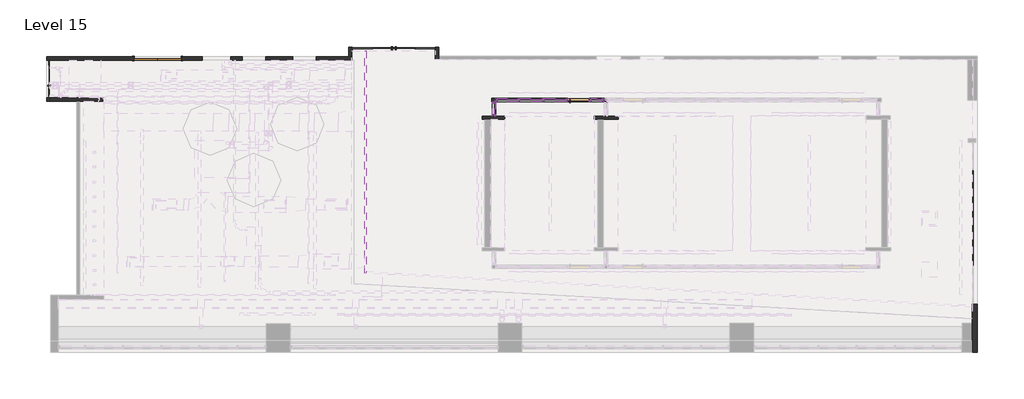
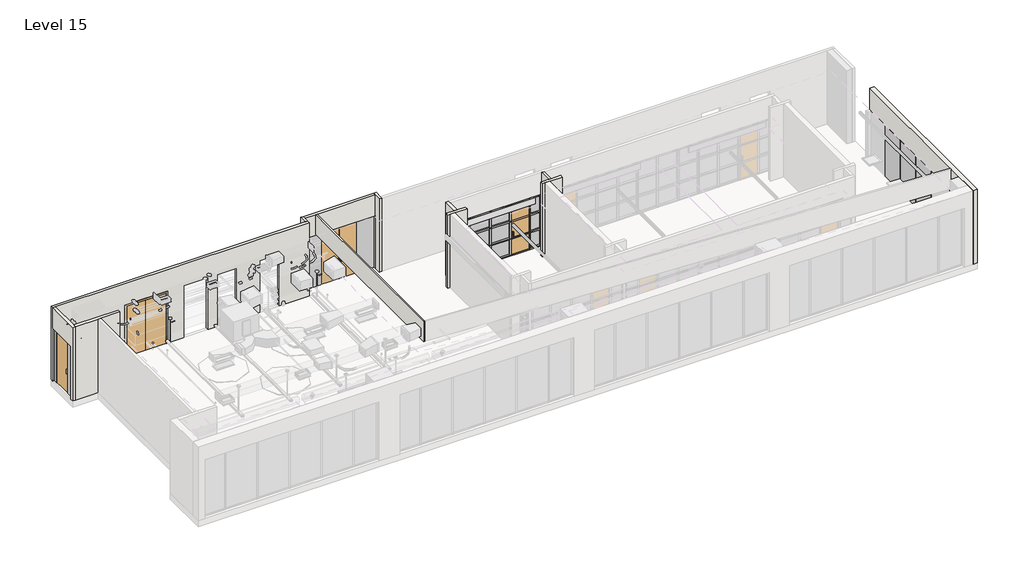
# One storey, part 4 of 11: 44 members, 23 plates, 12 walls, 4 doors.
"""IFC4 building model written with IfcOpenShell, lengths in millimetres."""

from ifc_helpers import new_model, si_unit, origin, place, context, project, spatial, faceted_brep, transform, mapped, element, save
from components import door_curtain_wall_single_glass_door_curtain_wall_single_wood_cd16bc55, door_e38457ce, m_door_curtain_wall_double_glass_m_door_curtain_wall_double_e74171b8, single_glass_door_door_curtain_wall_single_wood_f8af9d99, member_954a25dd, member_69cae7f1, member_c4e8739b, member_ae2b344b, member_e8c22809, member_75b1f528, member_4bf900b7, member_0079eb1d, member_377798e7, member_6aaa016f, member_a86ee493, member_0913546c, system_panel_glazed_a2e86c99, system_panel_glazed_5f2f0821, system_panel_glazed_c55544b5, system_panel_glazed_a68344bf, system_panel_glazed_f81f1869, system_panel_glazed_2e07d642, system_panel_glazed_fdbf88a6, system_panel_glazed_5c29f6be, system_panel_glazed_badf3451, system_panel_glazed_af863dd0, system_panel_glazed_a22f7e45, system_panel_glazed_e2c18884, system_panel_glazed_d4d25dca, system_panel_glazed_3e02181d, system_panel_glazed_dd8a9739, system_panel_glazed_3f411a17

model = new_model("IFC4")

# Units and contexts
model_context = context("Model", 3, world=origin())
ifc_project = project(units=[si_unit("LENGTHUNIT", "METRE", prefix="MILLI")], contexts=[model_context])

# Site, building, storey
site = spatial("IfcSite", under=ifc_project)
building = spatial("IfcBuilding", under=site)
storey = spatial("IfcBuildingStorey", under=building, Name="Level 15", Elevation=51206.4)

# Doors
placement = place(None, origin())
door_curtain_wall_single_glass_door_curtain_wall_single_wood_shape = door_curtain_wall_single_glass_door_curtain_wall_single_wood_cd16bc55(model_context)
element("IfcDoor", 1, ObjectType="Door-Curtain-Wall-Single-Glass : Door-Curtain-Wall-Single-Wood", at=placement, inside=storey, context=model_context, shape_type="MappedRepresentation", body=[
    mapped(door_curtain_wall_single_glass_door_curtain_wall_single_wood_shape, transform((2922.6369657, 3036.0059951, 51206.4), x_axis=(1.0, 0.0, 0.0), y_axis=(0.0, 1.0, 0.0), z_axis=(0.0, 0.0, 1.0))),
])
door_shape = door_e38457ce(model_context)
element("IfcDoor", 2, ObjectType="Door-Double-Flush_Panel : 74\" x 100\"", at=placement, inside=storey, context=model_context, shape_type="MappedRepresentation", body=[
    mapped(door_shape, transform((-13882.57525, 4696.9500496, 51206.4), x_axis=(1.0, 0.0, 0.0), y_axis=(0.0, 1.0, 0.0), z_axis=(0.0, 0.0, 1.0))),
])
m_door_curtain_wall_double_glass_m_door_curtain_wall_double_shape = m_door_curtain_wall_double_glass_m_door_curtain_wall_double_e74171b8(model_context)
element("IfcDoor", 3, ObjectType="M_Door-Curtain-Wall-Double-Glass : M_Door-Curtain-Wall-Double-Glass", at=placement, inside=storey, context=model_context, shape_type="MappedRepresentation", body=[
    mapped(m_door_curtain_wall_double_glass_m_door_curtain_wall_double_shape, transform((-4446.9144855, 5072.4081345, 51206.4), x_axis=(1.0, 0.0, 0.0), y_axis=(0.0, 1.0, 0.0), z_axis=(0.0, 0.0, 1.0))),
])
single_glass_door_door_curtain_wall_single_wood_shape = single_glass_door_door_curtain_wall_single_wood_f8af9d99(model_context)
element("IfcDoor", 4, ObjectType="Single-Glass Door : Door-Curtain-Wall-Single-Wood", at=placement, inside=storey, context=model_context, shape_type="MappedRepresentation", body=[
    mapped(single_glass_door_door_curtain_wall_single_wood_shape, transform((-18251.37525, 3976.2250496, 51206.4), x_axis=(0.0, 1.0, 0.0), y_axis=(-1.0, 0.0, 0.0), z_axis=(0.0, 0.0, 1.0))),
])

# Members
member_shape = member_954a25dd(model_context)
element("IfcMember", 5, ObjectType="Rectangular Mullion : 2.5\" x 5\" rectangular", at=placement, inside=storey, context=model_context, shape_type="MappedRepresentation", body=[
    mapped(member_shape, transform((-402.1055951, 3036.0059951, 51206.4), x_axis=(-1.0, 0.0, 0.0), y_axis=(0.0, 1.0, 0.0), z_axis=(0.0, 0.0, -1.0))),
])
element("IfcMember", 6, ObjectType="Rectangular Mullion : 2.5\" x 5\" rectangular", at=placement, inside=storey, context=model_context, shape_type="MappedRepresentation", body=[
    mapped(member_shape, transform((-442.9144534, 2976.416042, 51206.4), x_axis=(0.0, 1.0, 0.0), y_axis=(1.0, 0.0, 0.0), z_axis=(0.0, 0.0, -1.0))),
])
element("IfcMember", 7, ObjectType="Rectangular Mullion : 2.5\" x 5\" rectangular", at=placement, inside=storey, context=model_context, shape_type="MappedRepresentation", body=[
    mapped(member_shape, transform((3949.4264687, 3036.0059951, 53804.1570075), x_axis=(1.0, 0.0, 0.0), y_axis=(0.0, 1.0, 0.0), z_axis=(0.0, 0.0, 1.0))),
])
element("IfcMember", 8, ObjectType="Rectangular Mullion : 2.5\" x 5\" rectangular", at=placement, inside=storey, context=model_context, shape_type="MappedRepresentation", body=[
    mapped(member_shape, transform((-442.9144534, 2388.3059951, 53804.1570075), x_axis=(0.0, -1.0, 0.0), y_axis=(1.0, 0.0, 0.0), z_axis=(0.0, 0.0, 1.0))),
])
member_2_shape = member_69cae7f1(model_context)
element("IfcMember", 9, ObjectType="Rectangular Mullion : 2.5\" x 5\" rectangular", at=placement, inside=storey, context=model_context, shape_type="MappedRepresentation", body=[
    mapped(member_2_shape, transform((2465.4369657, 3036.0059951, 51206.4), x_axis=(-1.0, 0.0, 0.0), y_axis=(0.0, 1.0, 0.0), z_axis=(0.0, 0.0, -1.0))),
])
element("IfcMember", 10, ObjectType="Rectangular Mullion : 2.5\" x 5\" rectangular", at=placement, inside=storey, context=model_context, shape_type="MappedRepresentation", body=[
    mapped(member_2_shape, transform((3379.8369657, 3036.0059951, 51206.4), x_axis=(-1.0, 0.0, 0.0), y_axis=(0.0, 1.0, 0.0), z_axis=(0.0, 0.0, -1.0))),
])
element("IfcMember", 11, ObjectType="Rectangular Mullion : 2.5\" x 5\" rectangular", at=placement, inside=storey, context=model_context, shape_type="MappedRepresentation", body=[
    mapped(member_2_shape, transform((1517.1531593, 3036.0059951, 51206.4), x_axis=(-1.0, 0.0, 0.0), y_axis=(0.0, 1.0, 0.0), z_axis=(0.0, 0.0, -1.0))),
])
element("IfcMember", 12, ObjectType="Rectangular Mullion : 2.5\" x 5\" rectangular", at=placement, inside=storey, context=model_context, shape_type="MappedRepresentation", body=[
    mapped(member_2_shape, transform((528.6355466, 3036.0059951, 51206.4), x_axis=(-1.0, 0.0, 0.0), y_axis=(0.0, 1.0, 0.0), z_axis=(0.0, 0.0, -1.0))),
])
element("IfcMember", 13, ObjectType="Rectangular Mullion : 2.5\" x 5\" rectangular", at=placement, inside=storey, context=model_context, shape_type="MappedRepresentation", body=[
    mapped(member_2_shape, transform((3379.8369657, 3036.0059951, 52938.238005), x_axis=(-1.0, 0.0, 0.0), y_axis=(0.0, 1.0, 0.0), z_axis=(0.0, 0.0, -1.0))),
])
element("IfcMember", 14, ObjectType="Rectangular Mullion : 2.5\" x 5\" rectangular", at=placement, inside=storey, context=model_context, shape_type="MappedRepresentation", body=[
    mapped(member_2_shape, transform((2465.4369657, 3036.0059951, 52938.238005), x_axis=(-1.0, 0.0, 0.0), y_axis=(0.0, 1.0, 0.0), z_axis=(0.0, 0.0, -1.0))),
])
element("IfcMember", 15, ObjectType="Rectangular Mullion : 2.5\" x 5\" rectangular", at=placement, inside=storey, context=model_context, shape_type="MappedRepresentation", body=[
    mapped(member_2_shape, transform((1517.1531593, 3036.0059951, 52938.238005), x_axis=(-1.0, 0.0, 0.0), y_axis=(0.0, 1.0, 0.0), z_axis=(0.0, 0.0, -1.0))),
])
element("IfcMember", 16, ObjectType="Rectangular Mullion : 2.5\" x 5\" rectangular", at=placement, inside=storey, context=model_context, shape_type="MappedRepresentation", body=[
    mapped(member_2_shape, transform((528.6355466, 3036.0059951, 52938.238005), x_axis=(-1.0, 0.0, 0.0), y_axis=(0.0, 1.0, 0.0), z_axis=(0.0, 0.0, -1.0))),
])
element("IfcMember", 17, ObjectType="Rectangular Mullion : 2.5\" x 5\" rectangular", at=placement, inside=storey, context=model_context, shape_type="MappedRepresentation", body=[
    mapped(member_2_shape, transform((3379.8369657, 3036.0059951, 52072.3190025), x_axis=(-1.0, 0.0, 0.0), y_axis=(0.0, 1.0, 0.0), z_axis=(0.0, 0.0, -1.0))),
])
element("IfcMember", 18, ObjectType="Rectangular Mullion : 2.5\" x 5\" rectangular", at=placement, inside=storey, context=model_context, shape_type="MappedRepresentation", body=[
    mapped(member_2_shape, transform((2465.4369657, 3036.0059951, 52072.3190025), x_axis=(-1.0, 0.0, 0.0), y_axis=(0.0, 1.0, 0.0), z_axis=(0.0, 0.0, -1.0))),
])
element("IfcMember", 19, ObjectType="Rectangular Mullion : 2.5\" x 5\" rectangular", at=placement, inside=storey, context=model_context, shape_type="MappedRepresentation", body=[
    mapped(member_2_shape, transform((1517.1531593, 3036.0059951, 52072.3190025), x_axis=(-1.0, 0.0, 0.0), y_axis=(0.0, 1.0, 0.0), z_axis=(0.0, 0.0, -1.0))),
])
element("IfcMember", 20, ObjectType="Rectangular Mullion : 2.5\" x 5\" rectangular", at=placement, inside=storey, context=model_context, shape_type="MappedRepresentation", body=[
    mapped(member_2_shape, transform((528.6355466, 3036.0059951, 52072.3190025), x_axis=(-1.0, 0.0, 0.0), y_axis=(0.0, 1.0, 0.0), z_axis=(0.0, 0.0, -1.0))),
])
member_3_shape = member_c4e8739b(model_context)
element("IfcMember", 21, ObjectType="Rectangular Mullion : 2.5\" x 5\" rectangular", at=placement, inside=storey, context=model_context, shape_type="MappedRepresentation", body=[
    mapped(member_3_shape, transform((2433.6869657, 3036.0059951, 51206.4), x_axis=(0.0, 0.0, -1.0), y_axis=(0.0, 1.0, 0.0), z_axis=(1.0, 0.0, 0.0))),
])
member_4_shape = member_ae2b344b(model_context)
element("IfcMember", 22, ObjectType="Rectangular Mullion : 2.5\" x 5\" rectangular", at=placement, inside=storey, context=model_context, shape_type="MappedRepresentation", body=[
    mapped(member_4_shape, transform((1548.9031593, 3036.0059951, 52938.238005), x_axis=(0.0, 0.0, 1.0), y_axis=(0.0, 1.0, 0.0), z_axis=(-1.0, 0.0, 0.0))),
])
element("IfcMember", 23, ObjectType="Rectangular Mullion : 2.5\" x 5\" rectangular", at=placement, inside=storey, context=model_context, shape_type="MappedRepresentation", body=[
    mapped(member_4_shape, transform((1548.9031593, 3036.0059951, 52072.3190025), x_axis=(0.0, 0.0, 1.0), y_axis=(0.0, 1.0, 0.0), z_axis=(-1.0, 0.0, 0.0))),
])
element("IfcMember", 24, ObjectType="Rectangular Mullion : 2.5\" x 5\" rectangular", at=placement, inside=storey, context=model_context, shape_type="MappedRepresentation", body=[
    mapped(member_3_shape, transform((1548.9031593, 3036.0059951, 53804.1570075), x_axis=(0.0, 0.0, 1.0), y_axis=(0.0, 1.0, 0.0), z_axis=(-1.0, 0.0, 0.0))),
])
member_5_shape = member_e8c22809(model_context)
element("IfcMember", 25, ObjectType="Rectangular Mullion : 2.5\" x 5\" rectangular", at=placement, inside=storey, context=model_context, shape_type="MappedRepresentation", body=[
    mapped(member_5_shape, transform((1485.4031593, 3036.0059951, 51206.4), x_axis=(0.0, 0.0, -1.0), y_axis=(0.0, 1.0, 0.0), z_axis=(1.0, 0.0, 0.0))),
])
member_6_shape = member_75b1f528(model_context)
element("IfcMember", 26, ObjectType="Rectangular Mullion : 2.5\" x 5\" rectangular", at=placement, inside=storey, context=model_context, shape_type="MappedRepresentation", body=[
    mapped(member_6_shape, transform((560.3855466, 3036.0059951, 52072.3190025), x_axis=(0.0, 0.0, 1.0), y_axis=(0.0, 1.0, 0.0), z_axis=(-1.0, 0.0, 0.0))),
])
element("IfcMember", 27, ObjectType="Rectangular Mullion : 2.5\" x 5\" rectangular", at=placement, inside=storey, context=model_context, shape_type="MappedRepresentation", body=[
    mapped(member_6_shape, transform((560.3855466, 3036.0059951, 52938.238005), x_axis=(0.0, 0.0, 1.0), y_axis=(0.0, 1.0, 0.0), z_axis=(-1.0, 0.0, 0.0))),
])
element("IfcMember", 28, ObjectType="Rectangular Mullion : 2.5\" x 5\" rectangular", at=placement, inside=storey, context=model_context, shape_type="MappedRepresentation", body=[
    mapped(member_5_shape, transform((560.3855466, 3036.0059951, 53804.1570075), x_axis=(0.0, 0.0, 1.0), y_axis=(0.0, 1.0, 0.0), z_axis=(-1.0, 0.0, 0.0))),
])
element("IfcMember", 29, ObjectType="Rectangular Mullion : 2.5\" x 5\" rectangular", at=placement, inside=storey, context=model_context, shape_type="MappedRepresentation", body=[
    mapped(member_shape, transform((-402.1055951, 3036.0059951, 52938.238005), x_axis=(-1.0, 0.0, 0.0), y_axis=(0.0, 1.0, 0.0), z_axis=(0.0, 0.0, -1.0))),
])
element("IfcMember", 30, ObjectType="Rectangular Mullion : 2.5\" x 5\" rectangular", at=placement, inside=storey, context=model_context, shape_type="MappedRepresentation", body=[
    mapped(member_shape, transform((-442.9144534, 2976.416042, 52938.238005), x_axis=(0.0, 1.0, 0.0), y_axis=(1.0, 0.0, 0.0), z_axis=(0.0, 0.0, -1.0))),
])
element("IfcMember", 31, ObjectType="Rectangular Mullion : 2.5\" x 5\" rectangular", at=placement, inside=storey, context=model_context, shape_type="MappedRepresentation", body=[
    mapped(member_shape, transform((3949.4264687, 3036.0059951, 52938.238005), x_axis=(1.0, 0.0, 0.0), y_axis=(0.0, 1.0, 0.0), z_axis=(0.0, 0.0, 1.0))),
])
element("IfcMember", 32, ObjectType="Rectangular Mullion : 2.5\" x 5\" rectangular", at=placement, inside=storey, context=model_context, shape_type="MappedRepresentation", body=[
    mapped(member_shape, transform((-442.9144534, 2388.3059951, 52938.238005), x_axis=(0.0, -1.0, 0.0), y_axis=(1.0, 0.0, 0.0), z_axis=(0.0, 0.0, 1.0))),
])
element("IfcMember", 33, ObjectType="Rectangular Mullion : 2.5\" x 5\" rectangular", at=placement, inside=storey, context=model_context, shape_type="MappedRepresentation", body=[
    mapped(member_shape, transform((-402.1055951, 3036.0059951, 52072.3190025), x_axis=(-1.0, 0.0, 0.0), y_axis=(0.0, 1.0, 0.0), z_axis=(0.0, 0.0, -1.0))),
])
element("IfcMember", 34, ObjectType="Rectangular Mullion : 2.5\" x 5\" rectangular", at=placement, inside=storey, context=model_context, shape_type="MappedRepresentation", body=[
    mapped(member_shape, transform((-442.9144534, 2976.416042, 52072.3190025), x_axis=(0.0, 1.0, 0.0), y_axis=(1.0, 0.0, 0.0), z_axis=(0.0, 0.0, -1.0))),
])
element("IfcMember", 35, ObjectType="Rectangular Mullion : 2.5\" x 5\" rectangular", at=placement, inside=storey, context=model_context, shape_type="MappedRepresentation", body=[
    mapped(member_shape, transform((3949.4264687, 3036.0059951, 52072.3190025), x_axis=(1.0, 0.0, 0.0), y_axis=(0.0, 1.0, 0.0), z_axis=(0.0, 0.0, 1.0))),
])
element("IfcMember", 36, ObjectType="Rectangular Mullion : 2.5\" x 5\" rectangular", at=placement, inside=storey, context=model_context, shape_type="MappedRepresentation", body=[
    mapped(member_shape, transform((-442.9144534, 2388.3059951, 52072.3190025), x_axis=(0.0, -1.0, 0.0), y_axis=(1.0, 0.0, 0.0), z_axis=(0.0, 0.0, 1.0))),
])
member_7_shape = member_4bf900b7(model_context)
element("IfcMember", 37, ObjectType="Rectangular Mullion : 2.5\" x 5\" rectangular", at=placement, inside=storey, context=model_context, shape_type="MappedRepresentation", body=[
    mapped(member_7_shape, transform((-338.6055951, 3036.0059951, 53804.1570075), x_axis=(0.0, 0.0, 1.0), y_axis=(0.0, 1.0, 0.0), z_axis=(-1.0, 0.0, 0.0))),
])
member_8_shape = member_0079eb1d(model_context)
element("IfcMember", 38, ObjectType="Rectangular Mullion : 2.5\" x 5\" rectangular", at=placement, inside=storey, context=model_context, shape_type="MappedRepresentation", body=[
    mapped(member_8_shape, transform((3885.9264687, 3036.0059951, 51206.4), x_axis=(0.0, 0.0, -1.0), y_axis=(0.0, 1.0, 0.0), z_axis=(1.0, 0.0, 0.0))),
])
element("IfcMember", 39, ObjectType="Rectangular Mullion : 2.5\" x 5\" rectangular", at=placement, inside=storey, context=model_context, shape_type="MappedRepresentation", body=[
    mapped(member_8_shape, transform((3411.5869657, 3036.0059951, 53804.1570075), x_axis=(0.0, 0.0, 1.0), y_axis=(0.0, 1.0, 0.0), z_axis=(-1.0, 0.0, 0.0))),
])
member_9_shape = member_377798e7(model_context)
element("IfcMember", 40, ObjectType="Rectangular Mullion : 2.5\" x 5\" rectangular", at=placement, inside=storey, context=model_context, shape_type="MappedRepresentation", body=[
    mapped(member_9_shape, transform((3411.5869657, 3036.0059951, 52938.238005), x_axis=(0.0, 0.0, 1.0), y_axis=(0.0, 1.0, 0.0), z_axis=(-1.0, 0.0, 0.0))),
])
element("IfcMember", 41, ObjectType="Rectangular Mullion : 2.5\" x 5\" rectangular", at=placement, inside=storey, context=model_context, shape_type="MappedRepresentation", body=[
    mapped(member_9_shape, transform((3411.5869657, 3036.0059951, 52072.3190025), x_axis=(0.0, 0.0, 1.0), y_axis=(0.0, 1.0, 0.0), z_axis=(-1.0, 0.0, 0.0))),
])
element("IfcMember", 42, ObjectType="Rectangular Mullion : 2.5\" x 5\" rectangular", at=placement, inside=storey, context=model_context, shape_type="MappedRepresentation", body=[
    mapped(member_7_shape, transform((496.8855466, 3036.0059951, 51206.4), x_axis=(0.0, 0.0, -1.0), y_axis=(0.0, 1.0, 0.0), z_axis=(1.0, 0.0, 0.0))),
])
member_10_shape = member_6aaa016f(model_context)
element("IfcMember", 43, ObjectType="Rectangular Mullion : 2.5\" x 5\" rectangular", at=placement, inside=storey, context=model_context, shape_type="MappedRepresentation", body=[
    mapped(member_10_shape, transform((-338.6055951, 3036.0059951, 52072.3190025), x_axis=(0.0, 0.0, 1.0), y_axis=(0.0, 1.0, 0.0), z_axis=(-1.0, 0.0, 0.0))),
])
element("IfcMember", 44, ObjectType="Rectangular Mullion : 2.5\" x 5\" rectangular", at=placement, inside=storey, context=model_context, shape_type="MappedRepresentation", body=[
    mapped(member_10_shape, transform((-338.6055951, 3036.0059951, 52938.238005), x_axis=(0.0, 0.0, 1.0), y_axis=(0.0, 1.0, 0.0), z_axis=(-1.0, 0.0, 0.0))),
])
member_11_shape = member_a86ee493(model_context)
element("IfcMember", 45, ObjectType="Rectangular Mullion : 2.5\" x 5\" rectangular", at=placement, inside=storey, context=model_context, shape_type="MappedRepresentation", body=[
    mapped(member_11_shape, transform((-442.9144534, 2912.916042, 53804.1570075), x_axis=(0.0, 0.0, 1.0), y_axis=(1.0, 0.0, 0.0), z_axis=(0.0, 1.0, 0.0))),
])
element("IfcMember", 46, ObjectType="Rectangular Mullion : 2.5\" x 5\" rectangular", at=placement, inside=storey, context=model_context, shape_type="MappedRepresentation", body=[
    mapped(member_11_shape, transform((-442.9144534, 2451.8059951, 51206.4), x_axis=(0.0, 0.0, -1.0), y_axis=(1.0, 0.0, 0.0), z_axis=(0.0, -1.0, 0.0))),
])
member_12_shape = member_0913546c(model_context)
element("IfcMember", 47, ObjectType="Rectangular Mullion : 2.5\" x 5\" rectangular", at=placement, inside=storey, context=model_context, shape_type="MappedRepresentation", body=[
    mapped(member_12_shape, transform((-442.9144534, 2912.916042, 52938.238005), x_axis=(0.0, 0.0, 1.0), y_axis=(1.0, 0.0, 0.0), z_axis=(0.0, 1.0, 0.0))),
])
element("IfcMember", 48, ObjectType="Rectangular Mullion : 2.5\" x 5\" rectangular", at=placement, inside=storey, context=model_context, shape_type="MappedRepresentation", body=[
    mapped(member_12_shape, transform((-442.9144534, 2912.916042, 52072.3190025), x_axis=(0.0, 0.0, 1.0), y_axis=(1.0, 0.0, 0.0), z_axis=(0.0, 1.0, 0.0))),
])

# Plates
system_panel_glazed_shape = system_panel_glazed_a2e86c99(model_context)
element("IfcPlate", 49, ObjectType="System Panel : Glazed", at=placement, inside=storey, context=model_context, shape_type="MappedRepresentation", body=[
    mapped(system_panel_glazed_shape, transform((18645.0084916, -411.2064015, 51206.4), x_axis=(0.0, -1.0, 0.0), y_axis=(1.0, 0.0, 0.0), z_axis=(0.0, 0.0, 1.0))),
])
element("IfcPlate", 50, ObjectType="System Panel : Glazed", at=placement, inside=storey, context=model_context, shape_type="MappedRepresentation", body=[
    mapped(system_panel_glazed_shape, transform((18645.0084916, -1681.2064015, 51206.4), x_axis=(0.0, -1.0, 0.0), y_axis=(1.0, 0.0, 0.0), z_axis=(0.0, 0.0, 1.0))),
])
element("IfcPlate", 51, ObjectType="System Panel : Glazed", at=placement, inside=storey, context=model_context, shape_type="MappedRepresentation", body=[
    mapped(system_panel_glazed_shape, transform((18645.0084916, -2951.2064015, 51206.4), x_axis=(0.0, -1.0, 0.0), y_axis=(1.0, 0.0, 0.0), z_axis=(0.0, 0.0, 1.0))),
])
system_panel_glazed_2_shape = system_panel_glazed_5f2f0821(model_context)
element("IfcPlate", 52, ObjectType="System Panel : Glazed", at=placement, inside=storey, context=model_context, shape_type="MappedRepresentation", body=[
    mapped(system_panel_glazed_2_shape, transform((4027.5369657, 2674.1059951, 51269.9), x_axis=(0.0, 1.0, 0.0), y_axis=(-1.0, 0.0, 0.0), z_axis=(0.0, 0.0, 1.0))),
])
system_panel_glazed_3_shape = system_panel_glazed_c55544b5(model_context)
element("IfcPlate", 53, ObjectType="System Panel : Glazed", at=placement, inside=storey, context=model_context, shape_type="MappedRepresentation", body=[
    mapped(system_panel_glazed_3_shape, transform((1991.2950625, 3036.0059951, 51269.9), x_axis=(-1.0, 0.0, 0.0), y_axis=(0.0, -1.0, 0.0), z_axis=(0.0, 0.0, 1.0))),
])
element("IfcPlate", 54, ObjectType="System Panel : Glazed", at=placement, inside=storey, context=model_context, shape_type="MappedRepresentation", body=[
    mapped(system_panel_glazed_3_shape, transform((1991.2950625, 3036.0059951, 52969.988005), x_axis=(-1.0, 0.0, 0.0), y_axis=(0.0, -1.0, 0.0), z_axis=(0.0, 0.0, 1.0))),
])
system_panel_glazed_4_shape = system_panel_glazed_a68344bf(model_context)
element("IfcPlate", 55, ObjectType="System Panel : Glazed", at=placement, inside=storey, context=model_context, shape_type="MappedRepresentation", body=[
    mapped(system_panel_glazed_4_shape, transform((1991.2950625, 3036.0059951, 52104.0690025), x_axis=(-1.0, 0.0, 0.0), y_axis=(0.0, -1.0, 0.0), z_axis=(0.0, 0.0, 1.0))),
])
system_panel_glazed_5_shape = system_panel_glazed_f81f1869(model_context)
element("IfcPlate", 56, ObjectType="System Panel : Glazed", at=placement, inside=storey, context=model_context, shape_type="MappedRepresentation", body=[
    mapped(system_panel_glazed_5_shape, transform((1022.894353, 3036.0059951, 51269.9), x_axis=(-1.0, 0.0, 0.0), y_axis=(0.0, -1.0, 0.0), z_axis=(0.0, 0.0, 1.0))),
])
element("IfcPlate", 57, ObjectType="System Panel : Glazed", at=placement, inside=storey, context=model_context, shape_type="MappedRepresentation", body=[
    mapped(system_panel_glazed_5_shape, transform((1022.894353, 3036.0059951, 52969.988005), x_axis=(-1.0, 0.0, 0.0), y_axis=(0.0, -1.0, 0.0), z_axis=(0.0, 0.0, 1.0))),
])
system_panel_glazed_6_shape = system_panel_glazed_2e07d642(model_context)
element("IfcPlate", 58, ObjectType="System Panel : Glazed", at=placement, inside=storey, context=model_context, shape_type="MappedRepresentation", body=[
    mapped(system_panel_glazed_6_shape, transform((1022.894353, 3036.0059951, 52104.0690025), x_axis=(-1.0, 0.0, 0.0), y_axis=(0.0, -1.0, 0.0), z_axis=(0.0, 0.0, 1.0))),
])
system_panel_glazed_7_shape = system_panel_glazed_fdbf88a6(model_context)
element("IfcPlate", 59, ObjectType="System Panel : Glazed", at=placement, inside=storey, context=model_context, shape_type="MappedRepresentation", body=[
    mapped(system_panel_glazed_7_shape, transform((3648.7567172, 3036.0059951, 51269.9), x_axis=(-1.0, 0.0, 0.0), y_axis=(0.0, -1.0, 0.0), z_axis=(0.0, 0.0, 1.0))),
])
element("IfcPlate", 60, ObjectType="System Panel : Glazed", at=placement, inside=storey, context=model_context, shape_type="MappedRepresentation", body=[
    mapped(system_panel_glazed_7_shape, transform((3648.7567172, 3036.0059951, 52969.988005), x_axis=(-1.0, 0.0, 0.0), y_axis=(0.0, -1.0, 0.0), z_axis=(0.0, 0.0, 1.0))),
])
system_panel_glazed_8_shape = system_panel_glazed_5c29f6be(model_context)
element("IfcPlate", 61, ObjectType="System Panel : Glazed", at=placement, inside=storey, context=model_context, shape_type="MappedRepresentation", body=[
    mapped(system_panel_glazed_8_shape, transform((-442.9144534, 2682.3610185, 51269.9), x_axis=(0.0, 1.0, 0.0), y_axis=(-1.0, 0.0, 0.0), z_axis=(0.0, 0.0, 1.0))),
])
element("IfcPlate", 62, ObjectType="System Panel : Glazed", at=placement, inside=storey, context=model_context, shape_type="MappedRepresentation", body=[
    mapped(system_panel_glazed_8_shape, transform((-442.9144534, 2682.3610185, 52969.988005), x_axis=(0.0, 1.0, 0.0), y_axis=(-1.0, 0.0, 0.0), z_axis=(0.0, 0.0, 1.0))),
])
system_panel_glazed_9_shape = system_panel_glazed_badf3451(model_context)
element("IfcPlate", 63, ObjectType="System Panel : Glazed", at=placement, inside=storey, context=model_context, shape_type="MappedRepresentation", body=[
    mapped(system_panel_glazed_9_shape, transform((3648.7567172, 3036.0059951, 52104.0690025), x_axis=(-1.0, 0.0, 0.0), y_axis=(0.0, -1.0, 0.0), z_axis=(0.0, 0.0, 1.0))),
])
system_panel_glazed_10_shape = system_panel_glazed_af863dd0(model_context)
element("IfcPlate", 64, ObjectType="System Panel : Glazed", at=placement, inside=storey, context=model_context, shape_type="MappedRepresentation", body=[
    mapped(system_panel_glazed_10_shape, transform((79.1399758, 3036.0059951, 51269.9), x_axis=(-1.0, 0.0, 0.0), y_axis=(0.0, -1.0, 0.0), z_axis=(0.0, 0.0, 1.0))),
])
element("IfcPlate", 65, ObjectType="System Panel : Glazed", at=placement, inside=storey, context=model_context, shape_type="MappedRepresentation", body=[
    mapped(system_panel_glazed_10_shape, transform((79.1399758, 3036.0059951, 52969.988005), x_axis=(-1.0, 0.0, 0.0), y_axis=(0.0, -1.0, 0.0), z_axis=(0.0, 0.0, 1.0))),
])
system_panel_glazed_11_shape = system_panel_glazed_a22f7e45(model_context)
element("IfcPlate", 66, ObjectType="System Panel : Glazed", at=placement, inside=storey, context=model_context, shape_type="MappedRepresentation", body=[
    mapped(system_panel_glazed_11_shape, transform((79.1399758, 3036.0059951, 52104.0690025), x_axis=(-1.0, 0.0, 0.0), y_axis=(0.0, -1.0, 0.0), z_axis=(0.0, 0.0, 1.0))),
])
system_panel_glazed_12_shape = system_panel_glazed_e2c18884(model_context)
element("IfcPlate", 67, ObjectType="System Panel : Glazed", at=placement, inside=storey, context=model_context, shape_type="MappedRepresentation", body=[
    mapped(system_panel_glazed_12_shape, transform((-442.9144534, 2682.3610185, 52104.0690025), x_axis=(0.0, 1.0, 0.0), y_axis=(-1.0, 0.0, 0.0), z_axis=(0.0, 0.0, 1.0))),
])
system_panel_glazed_13_shape = system_panel_glazed_d4d25dca(model_context)
element("IfcPlate", 68, ObjectType="System Panel : Glazed", at=placement, inside=storey, context=model_context, shape_type="MappedRepresentation", body=[
    mapped(system_panel_glazed_13_shape, transform((-18251.37525, 4533.4375496, 51206.4), x_axis=(0.0, -1.0, 0.0), y_axis=(1.0, 0.0, 0.0), z_axis=(0.0, 0.0, 1.0))),
])
system_panel_glazed_14_shape = system_panel_glazed_3e02181d(model_context)
element("IfcPlate", 69, ObjectType="System Panel : Glazed", at=placement, inside=storey, context=model_context, shape_type="MappedRepresentation", body=[
    mapped(system_panel_glazed_14_shape, transform((-18251.37525, 3328.5250496, 51206.4), x_axis=(0.0, -1.0, 0.0), y_axis=(1.0, 0.0, 0.0), z_axis=(0.0, 0.0, 1.0))),
])
system_panel_glazed_15_shape = system_panel_glazed_dd8a9739(model_context)
element("IfcPlate", 70, ObjectType="System Panel : Glazed", at=placement, inside=storey, context=model_context, shape_type="MappedRepresentation", body=[
    mapped(system_panel_glazed_15_shape, transform((-3199.4811847, 5072.4081345, 51206.4), x_axis=(1.0, 0.0, 0.0), y_axis=(0.0, 1.0, 0.0), z_axis=(0.0, 0.0, 1.0))),
])
system_panel_glazed_16_shape = system_panel_glazed_3f411a17(model_context)
element("IfcPlate", 71, ObjectType="System Panel : Glazed", at=placement, inside=storey, context=model_context, shape_type="MappedRepresentation", body=[
    mapped(system_panel_glazed_16_shape, transform((-5691.5144855, 5072.4081345, 51206.4), x_axis=(1.0, 0.0, 0.0), y_axis=(0.0, 1.0, 0.0), z_axis=(0.0, 0.0, 1.0))),
])

# Walls
element("IfcWall", 72, ObjectType="Generic - 3\"", at=placement, inside=storey, context=model_context, shape_type="Brep", body=[
    faceted_brep([(-5614.87525, 5008.9081345, 53889.275), (-5614.87525, -3879.7923298, 53889.275), (-5614.87525, -3879.7923298, 54889.4), (-5614.87525, 5008.9081345, 54889.4), (-5538.67525, 5008.9081345, 53889.275), (-5538.67525, 5008.9081345, 54889.4), (-5538.67525, -3807.7325414, 54889.4), (-5538.67525, -3884.0514798, 54889.4), (-5538.67525, -3884.0514798, 53889.275), (-5538.67525, -3807.7325414, 53889.275)], [[[0, 1, 2, 3]], [[4, 5, 6, 7, 8, 9]], [[1, 0, 4, 9, 8]], [[3, 2, 7, 6, 5]], [[0, 3, 5, 4]], [[2, 1, 8, 7]]]),
])
element("IfcWall", 73, ObjectType="Generic - 5\"", at=placement, inside=storey, context=model_context, shape_type="Brep", body=[
    faceted_brep([(-18314.87525, 4760.4500496, 54889.4), (-6249.87525, 4760.4500496, 54889.4), (-6122.87525, 4760.4500496, 54889.4), (-6122.87525, 4760.4500496, 51206.4), (-6249.87525, 4760.4500496, 51206.4), (-7547.97525, 4760.4500496, 51206.4), (-7547.97525, 4760.4500496, 53807.2), (-8482.37525, 4760.4500496, 53807.2), (-8482.37525, 4760.4500496, 51206.4), (-9567.27525, 4760.4500496, 51206.4), (-9567.27525, 4760.4500496, 53807.2), (-10501.67525, 4760.4500496, 53807.2), (-10501.67525, 4760.4500496, 51206.4), (-10951.57525, 4760.4500496, 51206.4), (-10951.57525, 4760.4500496, 53807.2), (-12089.17525, 4760.4500496, 53807.2), (-12089.17525, 4760.4500496, 51206.4), (-12942.77525, 4760.4500496, 51206.4), (-12942.77525, 4760.4500496, 53746.4), (-14822.37525, 4760.4500496, 53746.4), (-14822.37525, 4760.4500496, 51206.4), (-18314.87525, 4760.4500496, 51206.4), (-6122.87525, 4633.4500496, 54889.4), (-18187.87525, 4633.4500496, 54889.4), (-18314.87525, 4633.4500496, 54889.4), (-18314.87525, 4633.4500496, 53847.180647), (-18314.87525, 4633.4500496, 51206.4), (-14822.37525, 4633.4500496, 51206.4), (-14822.37525, 4633.4500496, 53746.4), (-12942.77525, 4633.4500496, 53746.4), (-12942.77525, 4633.4500496, 51206.4), (-12089.17525, 4633.4500496, 51206.4), (-12089.17525, 4633.4500496, 53807.2), (-10951.57525, 4633.4500496, 53807.2), (-10951.57525, 4633.4500496, 51206.4), (-10501.67525, 4633.4500496, 51206.4), (-10501.67525, 4633.4500496, 53807.2), (-9567.27525, 4633.4500496, 53807.2), (-9567.27525, 4633.4500496, 51206.4), (-8482.37525, 4633.4500496, 51206.4), (-8482.37525, 4633.4500496, 53807.2), (-7547.97525, 4633.4500496, 53807.2), (-7547.97525, 4633.4500496, 51206.4), (-6122.87525, 4633.4500496, 51206.4)], [[[0, 1, 2, 3, 4, 5, 6, 7, 8, 9, 10, 11, 12, 13, 14, 15, 16, 17, 18, 19, 20, 21]], [[22, 23, 24, 25, 26, 27, 28, 29, 30, 31, 32, 33, 34, 35, 36, 37, 38, 39, 40, 41, 42, 43]], [[3, 43, 42, 5, 4]], [[26, 21, 20, 27]], [[30, 17, 16, 31]], [[34, 13, 12, 35]], [[8, 39, 38, 9]], [[2, 1, 0, 24, 23, 22]], [[3, 2, 22, 43]], [[0, 21, 26, 25, 24]], [[29, 18, 17, 30]], [[18, 29, 28, 19]], [[19, 28, 27, 20]], [[33, 14, 13, 34]], [[14, 33, 32, 15]], [[15, 32, 31, 16]], [[41, 6, 5, 42]], [[6, 41, 40, 7]], [[7, 40, 39, 8]], [[11, 36, 35, 12]], [[36, 11, 10, 37]], [[37, 10, 9, 38]]]),
])
element("IfcWall", 74, ObjectType="Generic - 5\"", at=placement, inside=storey, context=model_context, shape_type="Brep", body=[
    faceted_brep([(-6122.87525, 4760.4500496, 51206.4), (-6122.87525, 5008.9081345, 51206.4), (-6122.87525, 5135.9081345, 51206.4), (-6122.87525, 5135.9081345, 54889.4), (-6122.87525, 5008.9081345, 54889.4), (-6122.87525, 4760.4500496, 54889.4), (-6249.87525, 4760.4500496, 51206.4), (-6249.87525, 4760.4500496, 54889.4), (-6249.87525, 5135.9081345, 54889.4), (-6249.87525, 5135.9081345, 51206.4)], [[[0, 1, 2, 3, 4, 5]], [[6, 7, 8, 9]], [[2, 1, 0, 6, 9]], [[5, 4, 3, 8, 7]], [[0, 5, 7, 6]], [[3, 2, 9, 8]]]),
])
element("IfcWall", 75, ObjectType="Generic - 5\"", at=placement, inside=storey, context=model_context, shape_type="Brep", body=[
    faceted_brep([(-2786.1641198, 5135.9081345, 51206.4), (-2786.1641198, 5008.9081345, 51206.4), (-2786.1641198, 4668.7435985, 51206.4), (-2786.1641198, 4668.7435985, 54889.4), (-2786.1641198, 5008.9081345, 54889.4), (-2786.1641198, 5135.9081345, 54889.4), (-2659.1641198, 5135.9081345, 51206.4), (-2659.1641198, 5135.9081345, 54889.4), (-2659.1641198, 4795.7435985, 54889.4), (-2659.1641198, 4668.7435985, 54889.4), (-2659.1641198, 4668.7435985, 51206.4), (-2659.1641198, 4795.7435985, 51206.4)], [[[0, 1, 2, 3, 4, 5]], [[6, 7, 8, 9, 10, 11]], [[2, 1, 0, 6, 11, 10]], [[5, 4, 3, 9, 8, 7]], [[3, 2, 10, 9]], [[0, 5, 7, 6]]]),
])
element("IfcWall", 76, ObjectType="Generic - 5\"", at=placement, inside=storey, context=model_context, shape_type="Brep", body=[
    faceted_brep([(-18187.87525, 4633.4500496, 54889.4), (-18187.87525, 3138.0250496, 54889.4), (-18187.87525, 2985.6250496, 54889.4), (-18187.87525, 2985.6250496, 51206.4), (-18187.87525, 3138.0250496, 51206.4), (-18187.87525, 3138.0250496, 53847.180647), (-18187.87525, 4633.4500496, 53847.180647), (-18314.87525, 2985.6250496, 54889.4), (-18314.87525, 4633.4500496, 54889.4), (-18314.87525, 4633.4500496, 53847.180647), (-18314.87525, 3138.0250496, 53847.180647), (-18314.87525, 3138.0250496, 51206.4), (-18314.87525, 2985.6250496, 51206.4)], [[[0, 1, 2, 3, 4, 5, 6]], [[7, 8, 9, 10, 11, 12]], [[3, 12, 11, 4]], [[2, 1, 0, 8, 7]], [[8, 0, 6, 9]], [[3, 2, 7, 12]], [[5, 10, 9, 6]], [[10, 5, 4, 11]]]),
])
element("IfcWall", 77, ObjectType="Generic - 5\"", at=placement, inside=storey, context=model_context, shape_type="Brep", body=[
    faceted_brep([(-7.6915135, 2388.3059951, 51206.4), (-922.0915135, 2388.3059951, 51206.4), (-922.0915135, 2388.3059951, 54889.4), (-529.1055951, 2388.3059951, 54889.4), (-402.1055951, 2388.3059951, 54889.4), (-7.6915135, 2388.3059951, 54889.4), (-7.6915135, 2261.3059951, 51206.4), (-7.6915135, 2261.3059951, 54889.4), (-585.5415135, 2261.3059951, 54889.4), (-814.1415135, 2261.3059951, 54889.4), (-922.0915135, 2261.3059951, 54889.4), (-922.0915135, 2261.3059951, 51206.4), (-814.1415135, 2261.3059951, 51206.4), (-585.5415135, 2261.3059951, 51206.4)], [[[0, 1, 2, 3, 4, 5]], [[6, 7, 8, 9, 10, 11, 12, 13]], [[1, 0, 6, 13, 12, 11]], [[2, 1, 11, 10]], [[5, 4, 3, 2, 10, 9, 8, 7]], [[0, 5, 7, 6]]]),
])
element("IfcWall", 78, ObjectType="Generic - 5\"", at=placement, inside=storey, context=model_context, shape_type="Brep", body=[
    faceted_brep([(3562.7584916, 2267.7059951, 51206.4), (3697.3369657, 2267.7059951, 51206.4), (3925.9369657, 2267.7059951, 51206.4), (4517.5084916, 2267.7059951, 51206.4), (4517.5084916, 2267.7059951, 54889.4), (3925.9369657, 2267.7059951, 54889.4), (3697.3369657, 2267.7059951, 54889.4), (3562.7584916, 2267.7059951, 54889.4), (3562.7584916, 2394.7059951, 51206.4), (3562.7584916, 2394.7059951, 54889.4), (3949.4264687, 2394.7059951, 54889.4), (4076.4264687, 2394.7059951, 54889.4), (4517.5084916, 2394.7059951, 54889.4), (4517.5084916, 2394.7059951, 51206.4)], [[[0, 1, 2, 3, 4, 5, 6, 7]], [[8, 9, 10, 11, 12, 13]], [[3, 2, 1, 0, 8, 13]], [[4, 3, 13, 12]], [[7, 6, 5, 4, 12, 11, 10, 9]], [[0, 7, 9, 8]]]),
])
element("IfcWall", 79, ObjectType="Generic - 5\"", at=placement, inside=storey, context=model_context, shape_type="Brep", body=[
    faceted_brep([(-402.1055951, 3103.416042, 54889.4), (-402.1055951, 2976.416042, 54889.4), (-402.1055951, 2388.3059951, 54889.4), (-402.1055951, 2388.3059951, 53804.1570075), (-402.1055951, 2976.416042, 53804.1570075), (-402.1055951, 2976.416042, 51206.4), (-402.1055951, 3103.416042, 51206.4), (-402.1055951, 3103.416042, 53804.1570075), (-529.1055951, 2388.3059951, 54889.4), (-529.1055951, 3103.416042, 54889.4), (-529.1055951, 3103.416042, 51206.4), (-529.1055951, 2976.416042, 51206.4), (-529.1055951, 2976.416042, 53804.1570075), (-529.1055951, 2388.3059951, 53804.1570075)], [[[0, 1, 2, 3, 4, 5, 6, 7]], [[8, 9, 10, 11, 12, 13]], [[10, 6, 5, 11]], [[2, 1, 0, 9, 8]], [[2, 8, 13, 3]], [[0, 7, 6, 10, 9]], [[12, 4, 3, 13]], [[4, 12, 11, 5]]]),
])
element("IfcWall", 80, ObjectType="Generic - 5\"", at=placement, inside=storey, context=model_context, shape_type="Brep", body=[
    faceted_brep([(4076.4264687, 2976.416042, 54889.4), (4076.4264687, 2394.7059951, 54889.4), (4076.4264687, 2394.7059951, 53804.1570075), (4076.4264687, 2953.5059951, 53804.1570075), (4076.4264687, 2953.5059951, 51206.4), (4076.4264687, 2976.416042, 51206.4), (4076.4264687, 2976.416042, 53804.1570075), (3949.4264687, 2394.7059951, 54889.4), (3949.4264687, 2976.416042, 54889.4), (3949.4264687, 2976.416042, 53804.1570075), (3949.4264687, 2976.416042, 51206.4), (3949.4264687, 2953.5059951, 51206.4), (3949.4264687, 2953.5059951, 53804.1570075), (3949.4264687, 2394.7059951, 53804.1570075)], [[[0, 1, 2, 3, 4, 5, 6]], [[7, 8, 9, 10, 11, 12, 13]], [[10, 5, 4, 11]], [[1, 0, 8, 7]], [[0, 6, 5, 10, 9, 8]], [[1, 7, 13, 2]], [[12, 3, 2, 13]], [[3, 12, 11, 4]]]),
])
element("IfcWall", 81, ObjectType="Generic - 5\"", at=placement, inside=storey, context=model_context, shape_type="Brep", body=[
    faceted_brep([(-2786.1641198, 5008.9081345, 54889.4), (-5538.67525, 5008.9081345, 54889.4), (-5614.87525, 5008.9081345, 54889.4), (-6122.87525, 5008.9081345, 54889.4), (-6122.87525, 5008.9081345, 51206.4), (-6097.9144855, 5008.9081345, 51206.4), (-6097.9144855, 5008.9081345, 53847.180647), (-2790.2478839, 5008.9081345, 53847.180647), (-2790.2478839, 5008.9081345, 51206.4), (-2786.1641198, 5008.9081345, 51206.4), (-6122.87525, 5135.9081345, 54889.4), (-2786.1641198, 5135.9081345, 54889.4), (-2786.1641198, 5135.9081345, 51206.4), (-2790.2478839, 5135.9081345, 51206.4), (-2790.2478839, 5135.9081345, 53847.180647), (-6097.9144855, 5135.9081345, 53847.180647), (-6097.9144855, 5135.9081345, 51206.4), (-6122.87525, 5135.9081345, 51206.4)], [[[0, 1, 2, 3, 4, 5, 6, 7, 8, 9]], [[10, 11, 12, 13, 14, 15, 16, 17]], [[4, 17, 16, 5]], [[12, 9, 8, 13]], [[3, 2, 1, 0, 11, 10]], [[15, 6, 5, 16]], [[6, 15, 14, 7]], [[7, 14, 13, 8]], [[4, 3, 10, 17]], [[0, 9, 12, 11]]]),
])
element("IfcWall", 82, ObjectType="Generic - 6\"", at=placement, inside=storey, context=model_context, shape_type="Brep", body=[
    faceted_brep([(-18187.87525, 2985.6250496, 51206.4), (-17112.0809218, 2985.6250496, 51206.4), (-16985.0809218, 2985.6250496, 51206.4), (-16075.1051026, 2985.6250496, 51206.4), (-16075.1051026, 2985.6250496, 54889.4), (-16985.0809218, 2985.6250496, 54889.4), (-17112.0809218, 2985.6250496, 54889.4), (-18187.87525, 2985.6250496, 54889.4), (-18187.87525, 3138.0250496, 51206.4), (-18187.87525, 3138.0250496, 53847.180647), (-18187.87525, 3138.0250496, 54889.4), (-16075.1051026, 3138.0250496, 54889.4), (-16075.1051026, 3138.0250496, 51206.4)], [[[0, 1, 2, 3, 4, 5, 6, 7]], [[8, 9, 10, 11, 12]], [[3, 2, 1, 0, 8, 12]], [[4, 3, 12, 11]], [[7, 6, 5, 4, 11, 10]], [[0, 7, 10, 9, 8]]]),
])
element("IfcWall", 83, ObjectType="Generic - 8\"", at=placement, inside=storey, context=model_context, shape_type="Brep", body=[
    faceted_brep([(18657.7084916, -7040.6064015, 54889.4), (18657.7084916, -6583.4064015, 54889.4), (18657.7084916, -5866.7417202, 54889.4), (18657.7084916, -5236.4927711, 54889.4), (18657.7084916, -5160.1738327, 54889.4), (18657.7084916, 1468.3935985, 54889.4), (18657.7084916, 1468.3935985, 53804.1570075), (18657.7084916, -5108.5846821, 53804.1570075), (18657.7084916, -5108.5846821, 51206.4), (18657.7084916, -5866.7417202, 51206.4), (18657.7084916, -6583.4064015, 51206.4), (18657.7084916, -7040.6064015, 51206.4), (18860.9084916, 1468.3935985, 54889.4), (18860.9084916, -7040.6064015, 54889.4), (18860.9084916, -7040.6064015, 51206.4), (18860.9084916, -5108.5846821, 51206.4), (18860.9084916, -5108.5846821, 53804.1570075), (18860.9084916, 1468.3935985, 53804.1570075)], [[[0, 1, 2, 3, 4, 5, 6, 7, 8, 9, 10, 11]], [[12, 13, 14, 15, 16, 17]], [[14, 11, 10, 9, 8, 15]], [[5, 4, 3, 2, 1, 0, 13, 12]], [[5, 12, 17, 6]], [[0, 11, 14, 13]], [[16, 7, 6, 17]], [[7, 16, 15, 8]]]),
])

save(model, "model.ifc")
